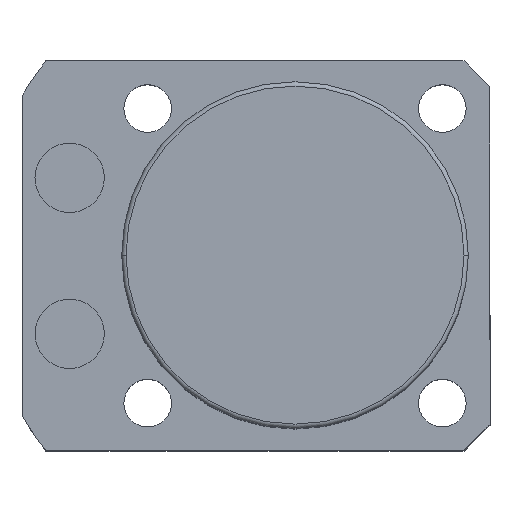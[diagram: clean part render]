
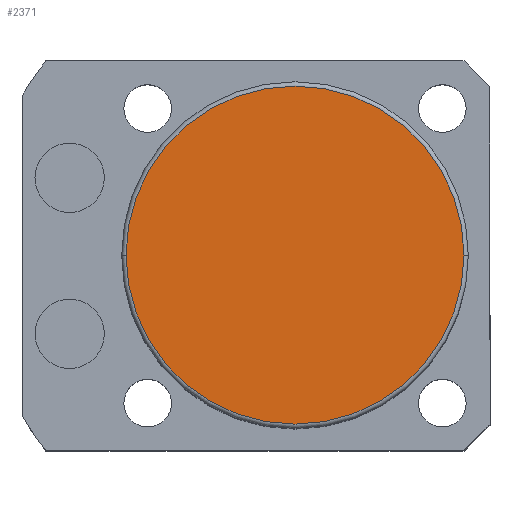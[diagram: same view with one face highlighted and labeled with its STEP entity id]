
A CAD part, top view. The second image highlights one B-rep face of the part: STEP entity #2371.
In plain terms, the highlighted planar face has unit normal (0, 0, 1).
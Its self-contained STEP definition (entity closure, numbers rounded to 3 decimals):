
#17 = EDGE_LOOP ( 'NONE', ( #2106, #323 ) ) ;
#51 = CARTESIAN_POINT ( 'NONE',  ( 0., 0., 58.5 ) ) ;
#140 = DIRECTION ( 'NONE',  ( 0., 0., 1. ) ) ;
#158 = DIRECTION ( 'NONE',  ( 0., 0., 1. ) ) ;
#323 = ORIENTED_EDGE ( 'NONE', *, *, #2374, .T. ) ;
#399 = DIRECTION ( 'NONE',  ( 1., 0., 0. ) ) ;
#484 = EDGE_CURVE ( 'NONE', #1292, #674, #1224, .T. ) ;
#507 = CARTESIAN_POINT ( 'NONE',  ( -19.5, 0., 58.5 ) ) ;
#674 = VERTEX_POINT ( 'NONE', #507 ) ;
#979 = FACE_OUTER_BOUND ( 'NONE', #17, .T. ) ;
#1224 = CIRCLE ( 'NONE', #1661, 19.5 ) ;
#1292 = VERTEX_POINT ( 'NONE', #2145 ) ;
#1365 = AXIS2_PLACEMENT_3D ( 'NONE', #2301, #140, #1649 ) ;
#1368 = DIRECTION ( 'NONE',  ( 0., 0., 1. ) ) ;
#1434 = PLANE ( 'NONE',  #1365 ) ;
#1649 = DIRECTION ( 'NONE',  ( 1., 0., 0. ) ) ;
#1661 = AXIS2_PLACEMENT_3D ( 'NONE', #51, #1368, #399 ) ;
#1675 = CIRCLE ( 'NONE', #2141, 19.5 ) ;
#2106 = ORIENTED_EDGE ( 'NONE', *, *, #484, .T. ) ;
#2141 = AXIS2_PLACEMENT_3D ( 'NONE', #2173, #158, #2359 ) ;
#2145 = CARTESIAN_POINT ( 'NONE',  ( 19.5, 0., 58.5 ) ) ;
#2173 = CARTESIAN_POINT ( 'NONE',  ( 0., 0., 58.5 ) ) ;
#2301 = CARTESIAN_POINT ( 'NONE',  ( 0., 0., 58.5 ) ) ;
#2359 = DIRECTION ( 'NONE',  ( 1., 0., 0. ) ) ;
#2371 = ADVANCED_FACE ( 'NONE', ( #979 ), #1434, .T. ) ;
#2374 = EDGE_CURVE ( 'NONE', #674, #1292, #1675, .T. ) ;
